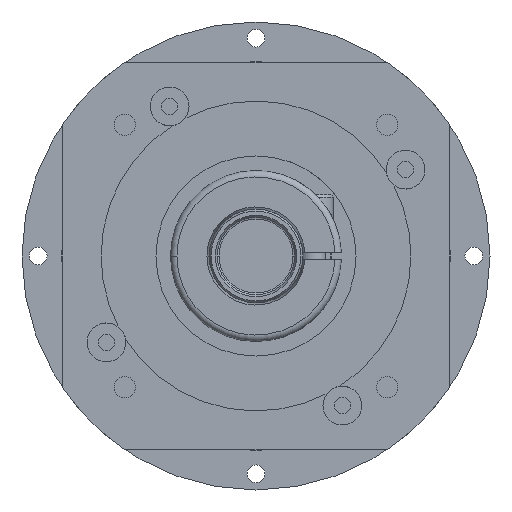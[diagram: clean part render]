
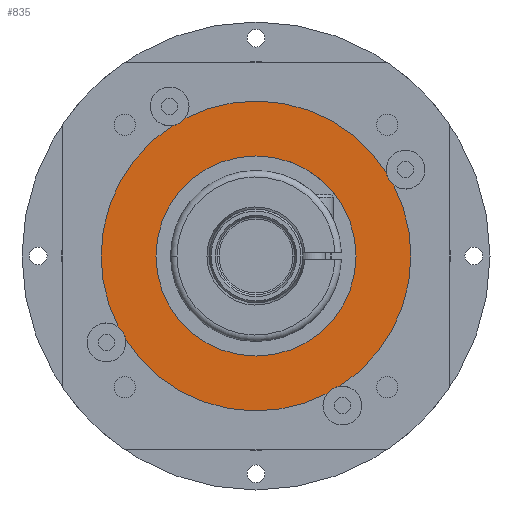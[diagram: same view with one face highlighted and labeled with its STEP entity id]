
A CAD part, left-side view. The second image highlights one B-rep face of the part: STEP entity #835.
In plain terms, the highlighted planar face has unit normal (-1, 0, 0).
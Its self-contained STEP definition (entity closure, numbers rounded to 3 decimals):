
#835=ADVANCED_FACE('',(#1732,#1733),#1734,.F.);
#1732=FACE_BOUND('',#2697,.T.);
#1733=FACE_OUTER_BOUND('',#2698,.T.);
#1734=PLANE('',#2699);
#2697=EDGE_LOOP('',(#4874,#4875));
#2698=EDGE_LOOP('',(#4876,#4877,#4878,#4879,#4880,#4881,#4882,#4883,#4884,#4885));
#2699=AXIS2_PLACEMENT_3D('',#4886,#4887,#4888);
#4874=ORIENTED_EDGE('',*,*,#6139,.T.);
#4875=ORIENTED_EDGE('',*,*,#6159,.T.);
#4876=ORIENTED_EDGE('',*,*,#6122,.F.);
#4877=ORIENTED_EDGE('',*,*,#6162,.F.);
#4878=ORIENTED_EDGE('',*,*,#6129,.F.);
#4879=ORIENTED_EDGE('',*,*,#6163,.F.);
#4880=ORIENTED_EDGE('',*,*,#6164,.F.);
#4881=ORIENTED_EDGE('',*,*,#6165,.F.);
#4882=ORIENTED_EDGE('',*,*,#6132,.F.);
#4883=ORIENTED_EDGE('',*,*,#6166,.F.);
#4884=ORIENTED_EDGE('',*,*,#6113,.F.);
#4885=ORIENTED_EDGE('',*,*,#6167,.F.);
#4886=CARTESIAN_POINT('',(-51.0,0.0,0.0));
#4887=DIRECTION('',(1.0,0.0,0.0));
#4888=DIRECTION('',(0.0,1.0,0.0));
#6113=EDGE_CURVE('',#7420,#7422,#7423,.T.);
#6122=EDGE_CURVE('',#7437,#7439,#7440,.T.);
#6129=EDGE_CURVE('',#7450,#7446,#7452,.T.);
#6132=EDGE_CURVE('',#7454,#7457,#7458,.T.);
#6139=EDGE_CURVE('',#7464,#7468,#7470,.T.);
#6159=EDGE_CURVE('',#7468,#7464,#7499,.T.);
#6162=EDGE_CURVE('',#7446,#7437,#7502,.T.);
#6163=EDGE_CURVE('',#7503,#7450,#7504,.T.);
#6164=EDGE_CURVE('',#7505,#7503,#7506,.T.);
#6165=EDGE_CURVE('',#7457,#7505,#7507,.T.);
#6166=EDGE_CURVE('',#7422,#7454,#7508,.T.);
#6167=EDGE_CURVE('',#7439,#7420,#7509,.T.);
#7420=VERTEX_POINT('',#9590);
#7422=VERTEX_POINT('',#9593);
#7423=CIRCLE('',#9594,6.0);
#7437=VERTEX_POINT('',#9611);
#7439=VERTEX_POINT('',#9614);
#7440=CIRCLE('',#9615,6.0);
#7446=VERTEX_POINT('',#9622);
#7450=VERTEX_POINT('',#9627);
#7452=CIRCLE('',#9630,48.0);
#7454=VERTEX_POINT('',#9632);
#7457=VERTEX_POINT('',#9636);
#7458=CIRCLE('',#9637,48.0);
#7464=VERTEX_POINT('',#9644);
#7468=VERTEX_POINT('',#9649);
#7470=CIRCLE('',#9652,31.0);
#7499=CIRCLE('',#9752,31.0);
#7502=CIRCLE('',#9755,48.0);
#7503=VERTEX_POINT('',#9756);
#7504=CIRCLE('',#9757,6.0);
#7505=VERTEX_POINT('',#9758);
#7506=CIRCLE('',#9759,48.0);
#7507=CIRCLE('',#9760,6.0);
#7508=CIRCLE('',#9761,48.0);
#7509=CIRCLE('',#9762,48.0);
#9590=CARTESIAN_POINT('',(-51.0,40.387,-25.94));
#9593=CARTESIAN_POINT('',(-51.0,42.658,-22.007));
#9594=AXIS2_PLACEMENT_3D('',#11131,#11132,#11133);
#9611=CARTESIAN_POINT('',(-51.0,-25.94,-40.387));
#9614=CARTESIAN_POINT('',(-51.0,-22.007,-42.658));
#9615=AXIS2_PLACEMENT_3D('',#11147,#11148,#11149);
#9622=CARTESIAN_POINT('',(-51.0,-48.0,0.));
#9627=CARTESIAN_POINT('',(-51.0,-42.658,22.007));
#9630=AXIS2_PLACEMENT_3D('',#11159,#11160,#11161);
#9632=CARTESIAN_POINT('',(-51.0,48.0,0.));
#9636=CARTESIAN_POINT('',(-51.0,25.94,40.387));
#9637=AXIS2_PLACEMENT_3D('',#11163,#11164,#11165);
#9644=CARTESIAN_POINT('',(-51.0,31.0,0.0));
#9649=CARTESIAN_POINT('',(-51.0,-31.0,0.));
#9652=AXIS2_PLACEMENT_3D('',#11175,#11176,#11177);
#9752=AXIS2_PLACEMENT_3D('',#11200,#11201,#11202);
#9755=AXIS2_PLACEMENT_3D('',#11206,#11207,#11208);
#9756=CARTESIAN_POINT('',(-51.0,-40.387,25.94));
#9757=AXIS2_PLACEMENT_3D('',#11209,#11210,#11211);
#9758=CARTESIAN_POINT('',(-51.0,22.007,42.658));
#9759=AXIS2_PLACEMENT_3D('',#11212,#11213,#11214);
#9760=AXIS2_PLACEMENT_3D('',#11215,#11216,#11217);
#9761=AXIS2_PLACEMENT_3D('',#11218,#11219,#11220);
#9762=AXIS2_PLACEMENT_3D('',#11221,#11222,#11223);
#11131=CARTESIAN_POINT('',(-51.0,46.332,-26.75));
#11132=DIRECTION('',(-1.0,0.0,0.0));
#11133=DIRECTION('',(0.0,1.0,0.0));
#11147=CARTESIAN_POINT('',(-51.0,-26.75,-46.332));
#11148=DIRECTION('',(-1.0,0.0,0.0));
#11149=DIRECTION('',(0.0,1.0,0.0));
#11159=CARTESIAN_POINT('',(-51.0,0.0,0.0));
#11160=DIRECTION('',(1.0,0.0,0.0));
#11161=DIRECTION('',(0.0,1.0,0.0));
#11163=CARTESIAN_POINT('',(-51.0,0.0,0.0));
#11164=DIRECTION('',(1.0,0.0,0.0));
#11165=DIRECTION('',(0.0,1.0,0.0));
#11175=CARTESIAN_POINT('',(-51.0,0.0,0.0));
#11176=DIRECTION('',(1.0,0.0,0.0));
#11177=DIRECTION('',(0.0,1.0,0.0));
#11200=CARTESIAN_POINT('',(-51.0,0.0,0.0));
#11201=DIRECTION('',(1.0,0.0,0.0));
#11202=DIRECTION('',(0.0,1.0,0.0));
#11206=CARTESIAN_POINT('',(-51.0,0.0,0.0));
#11207=DIRECTION('',(1.0,0.0,0.0));
#11208=DIRECTION('',(0.0,1.0,0.0));
#11209=CARTESIAN_POINT('',(-51.0,-46.332,26.75));
#11210=DIRECTION('',(-1.0,0.0,0.0));
#11211=DIRECTION('',(0.0,1.0,0.0));
#11212=CARTESIAN_POINT('',(-51.0,0.0,0.0));
#11213=DIRECTION('',(1.0,0.0,0.0));
#11214=DIRECTION('',(0.0,1.0,0.0));
#11215=CARTESIAN_POINT('',(-51.0,26.75,46.332));
#11216=DIRECTION('',(-1.0,0.0,0.0));
#11217=DIRECTION('',(0.0,1.0,0.0));
#11218=CARTESIAN_POINT('',(-51.0,0.0,0.0));
#11219=DIRECTION('',(1.0,0.0,0.0));
#11220=DIRECTION('',(0.0,1.0,0.0));
#11221=CARTESIAN_POINT('',(-51.0,0.0,0.0));
#11222=DIRECTION('',(1.0,0.0,0.0));
#11223=DIRECTION('',(0.0,1.0,0.0));
